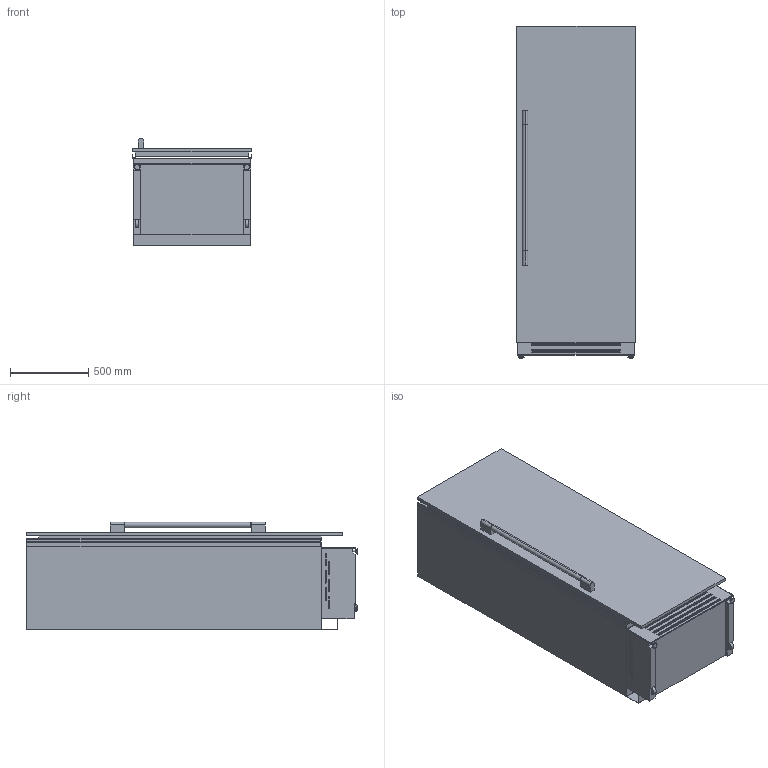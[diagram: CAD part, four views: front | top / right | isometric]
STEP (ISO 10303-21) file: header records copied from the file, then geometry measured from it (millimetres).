
FILE_DESCRIPTION (( 'STEP AP214' ), '1' );
FILE_NAME ('FKS_30_0F_R_6_U.STEP', '2025-01-21T12:45:01', ( '' ), ( '' ), 'SwSTEP 2.0', 'SolidWorks 2017', '' );
FILE_SCHEMA (( 'AUTOMOTIVE_DESIGN' ));
Length unit declared in the file: millimetre
Products named in the file (1): FKS_30_0F_R_6_U
Bounding box: 761 x 2120 x 687.5 mm (x, y, z)
Volume: 927192737.2 mm3; surface area: 10949147.2 mm2
Topology: 8 solids, 8 shells, 412 faces, 1042 edges, 686 vertices
Faces by surface type: plane 275, cylinder 121, torus 12, cone 4
Entity records: 13906 total; most frequent: CARTESIAN_POINT 2141, DIRECTION 2138, ORIENTED_EDGE 2084, EDGE_CURVE 1042, VECTOR 772, LINE 772, VERTEX_POINT 686, AXIS2_PLACEMENT_3D 683
